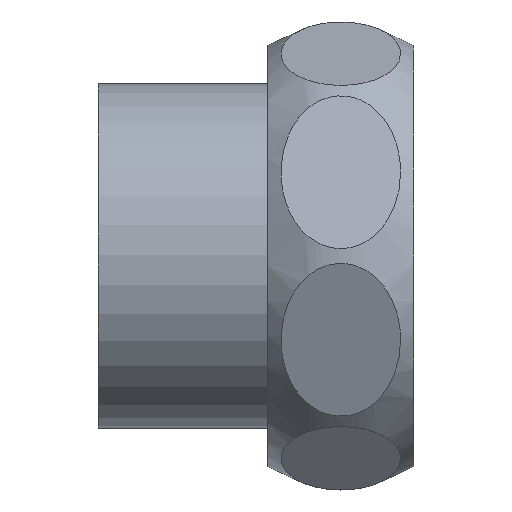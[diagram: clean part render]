
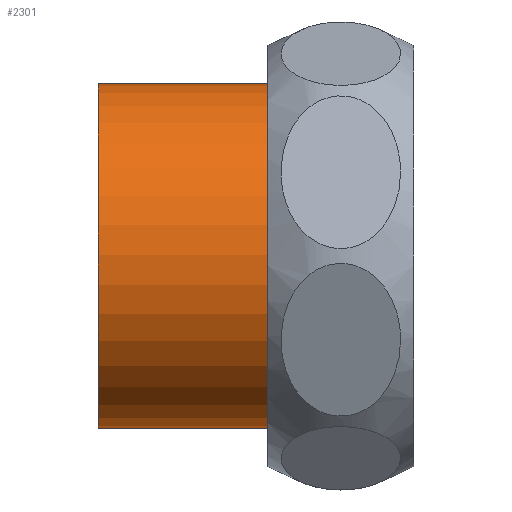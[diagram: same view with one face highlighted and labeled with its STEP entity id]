
A CAD part, front view. The second image highlights one B-rep face of the part: STEP entity #2301.
In plain terms, the highlighted cylindrical face has radius 29.5 mm (diameter 59 mm), a full revolution.
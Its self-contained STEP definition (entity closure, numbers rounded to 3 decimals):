
#2250=CARTESIAN_POINT('',(4.625,29.5,0.));
#2251=VERTEX_POINT('',#2250);
#2252=CARTESIAN_POINT('',(4.625,0.0,0.0));
#2253=DIRECTION('',(-1.0,0.0,0.0));
#2254=DIRECTION('',(0.0,-1.0,0.0));
#2255=AXIS2_PLACEMENT_3D('',#2252,#2253,#2254);
#2256=CIRCLE('',#2255,29.5);
#2257=EDGE_CURVE('',#2251,#2251,#2256,.T.);
#2282=CARTESIAN_POINT('',(21.125,0.0,0.0));
#2283=DIRECTION('',(1.0,0.0,0.0));
#2284=DIRECTION('',(0.0,1.0,0.0));
#2285=AXIS2_PLACEMENT_3D('',#2282,#2283,#2284);
#2286=CYLINDRICAL_SURFACE('',#2285,29.5);
#2287=CARTESIAN_POINT('',(38.125,29.5,0.0));
#2288=VERTEX_POINT('',#2287);
#2289=CARTESIAN_POINT('',(38.125,0.0,0.0));
#2290=DIRECTION('',(1.0,0.0,0.0));
#2291=DIRECTION('',(0.0,1.0,0.0));
#2292=AXIS2_PLACEMENT_3D('',#2289,#2290,#2291);
#2293=CIRCLE('',#2292,29.5);
#2294=EDGE_CURVE('',#2288,#2288,#2293,.T.);
#2295=ORIENTED_EDGE('',*,*,#2294,.F.);
#2296=EDGE_LOOP('',(#2295));
#2297=FACE_OUTER_BOUND('',#2296,.T.);
#2298=ORIENTED_EDGE('',*,*,#2257,.F.);
#2299=EDGE_LOOP('',(#2298));
#2300=FACE_BOUND('',#2299,.T.);
#2301=ADVANCED_FACE('',(#2297,#2300),#2286,.T.);
